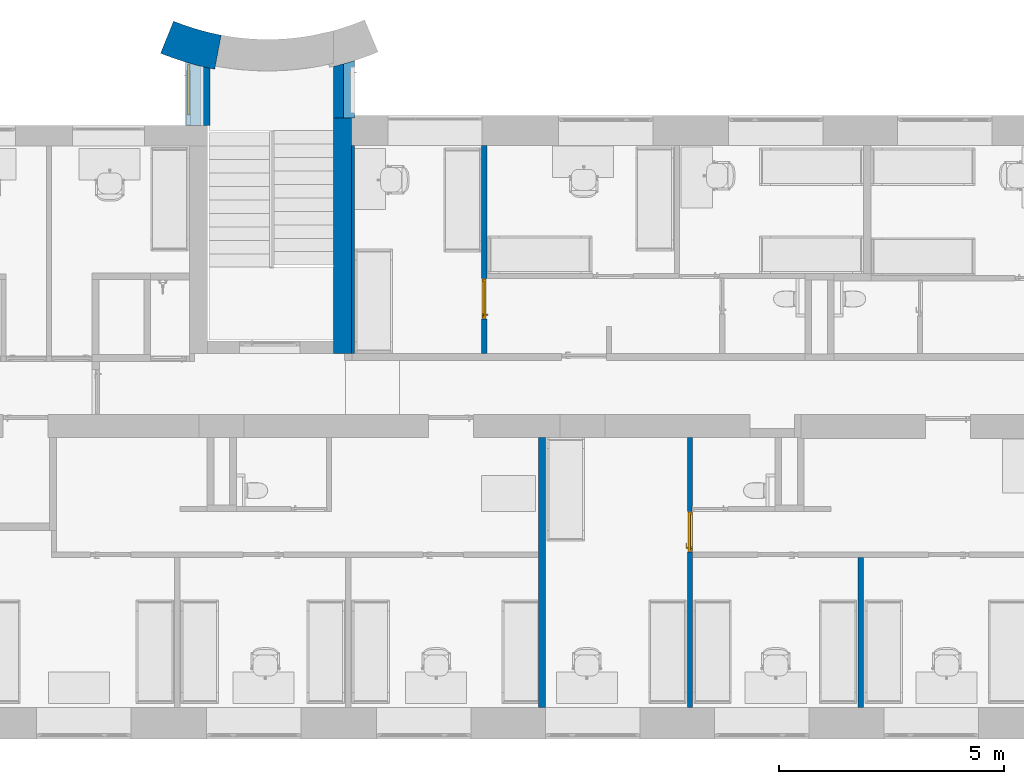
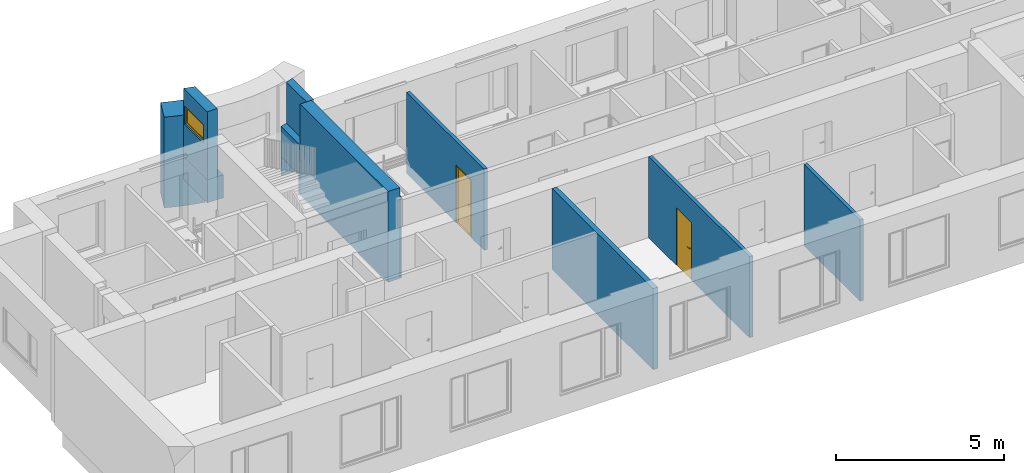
"""IFC2X3 building model written with IfcOpenShell, lengths in millimetres."""

from ifc_helpers import new_model, entity, si_unit, converted_unit, derived_unit, direction, frame, frame_2d, origin, origin_2d_with_axis, place, context, subcontext, project, spatial, polyline, circle_curve, parameter, trimmed, segment, composite_curve, rectangle, outline, extrude, faceted_brep, source, transform, mapped, material, material_list, layer, layer_set, layer_usage, type_object, type_shapes, element, fill, save


model = new_model("IFC2X3")

# Units and contexts
model_context = context("Model", 3, precision=0.01, world=origin(), true_north=direction((6.12303176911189e-17, 1.0)))
body_context = subcontext(model_context, "Body", "Model", "MODEL_VIEW")
ifc_project = project(units=[si_unit("LENGTHUNIT", "METRE", prefix="MILLI"), si_unit("AREAUNIT", "SQUARE_METRE"), si_unit("VOLUMEUNIT", "CUBIC_METRE"), converted_unit("PLANEANGLEUNIT", "DEGREE", entity("IfcRatioMeasure", 0.0174532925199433), si_unit("PLANEANGLEUNIT", "RADIAN"), dimensions=[0, 0, 0, 0, 0, 0, 0]), si_unit("MASSUNIT", "GRAM", prefix="KILO"), derived_unit("MASSDENSITYUNIT", [(si_unit("MASSUNIT", "GRAM", prefix="KILO"), 1), (si_unit("LENGTHUNIT", "METRE"), -3)]), si_unit("TIMEUNIT", "SECOND"), si_unit("FREQUENCYUNIT", "HERTZ"), si_unit("THERMODYNAMICTEMPERATUREUNIT", "DEGREE_CELSIUS"), derived_unit("THERMALTRANSMITTANCEUNIT", [(si_unit("MASSUNIT", "GRAM", prefix="KILO"), 1), (si_unit("THERMODYNAMICTEMPERATUREUNIT", "KELVIN"), -1), (si_unit("TIMEUNIT", "SECOND"), -3)]), derived_unit("VOLUMETRICFLOWRATEUNIT", [(si_unit("LENGTHUNIT", "METRE"), 3), (si_unit("TIMEUNIT", "SECOND"), -1)]), si_unit("ELECTRICCURRENTUNIT", "AMPERE"), si_unit("ELECTRICVOLTAGEUNIT", "VOLT"), si_unit("POWERUNIT", "WATT"), si_unit("FORCEUNIT", "NEWTON", prefix="KILO"), si_unit("ILLUMINANCEUNIT", "LUX"), si_unit("LUMINOUSFLUXUNIT", "LUMEN"), si_unit("LUMINOUSINTENSITYUNIT", "CANDELA"), derived_unit("USERDEFINED", [(si_unit("MASSUNIT", "GRAM", prefix="KILO"), -1), (si_unit("LENGTHUNIT", "METRE"), -2), (si_unit("TIMEUNIT", "SECOND"), 3), (si_unit("LUMINOUSFLUXUNIT", "LUMEN"), 1)]), derived_unit("LINEARVELOCITYUNIT", [(si_unit("LENGTHUNIT", "METRE"), 1), (si_unit("TIMEUNIT", "SECOND"), -1)]), si_unit("PRESSUREUNIT", "PASCAL"), derived_unit("USERDEFINED", [(si_unit("LENGTHUNIT", "METRE"), -2), (si_unit("MASSUNIT", "GRAM", prefix="KILO"), 1), (si_unit("TIMEUNIT", "SECOND"), -2)]), derived_unit("LINEARFORCEUNIT", [(si_unit("MASSUNIT", "GRAM", prefix="KILO"), 1), (si_unit("LENGTHUNIT", "METRE"), 1), (si_unit("TIMEUNIT", "SECOND"), -2), (si_unit("LENGTHUNIT", "METRE"), -1)]), derived_unit("PLANARFORCEUNIT", [(si_unit("MASSUNIT", "GRAM", prefix="KILO"), 1), (si_unit("LENGTHUNIT", "METRE"), 1), (si_unit("TIMEUNIT", "SECOND"), -2), (si_unit("LENGTHUNIT", "METRE"), -2)])], contexts=[model_context])

# Site, building, storey
site_placement = place(None, origin())
site = spatial("IfcSite", under=ifc_project, at=site_placement, Name="Default", CompositionType="ELEMENT")
building_placement = place(site_placement, origin())
building = spatial("IfcBuilding", under=site, at=building_placement, Name="SMA ARH", CompositionType="ELEMENT")
storey_1_placement = place(building_placement, origin())
storey_1 = spatial("IfcBuildingStorey", under=building, at=storey_1_placement, Name="1 Korrus", CompositionType="ELEMENT", Elevation=0.0)

# Wall
ifc_material_1 = material(Name="_ol.olev sein")
ifc_layer_1 = layer(ifc_material_1, 550.0)
ifc_layer_set_1 = layer_set([ifc_layer_1], Name="Basic Wall:Generic - 550mm")
ifc_layer_usage_1 = layer_usage(ifc_layer_set_1, "AXIS2", "POSITIVE", -275.0)
wall_type_1 = type_object("IfcWallType", Name="Basic Wall:Generic - 550mm", PredefinedType="STANDARD", material=ifc_layer_set_1)
wall_1_placement = place(storey_1_placement, frame((8585.0, 14359.8455573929, 960.0), z_axis=(0.0, 0.0, 1.0), x_axis=(0.0, -1.0, 0.0)))
element("IfcWallStandardCase", 1, at=wall_1_placement, inside=storey_1, type_object=wall_type_1, material=ifc_layer_usage_1, Name="Basic Wall:Generic - 550mm", ObjectType="Basic Wall:Generic - 550mm", context=body_context, shape_type="SweptSolid", body=[
    extrude(outline(polyline([(1413.64251449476, -275.0), (1413.64251449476, 125.0), (1413.64251449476, 275.0), (139.29289710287, 275.0), (123.33436768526, 199.884855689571), (106.466268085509, 124.966686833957), (56.5055359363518, -75.8576787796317), (0.0, -275.0), (1413.64251449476, -275.0)])), origin(), (0.0, 0.0, 1.0), 840.0),
])

# Wall, opening
ifc_layer_2 = layer(ifc_material_1, 400.0)
ifc_layer_set_2 = layer_set([ifc_layer_2], Name="Basic Wall:Generic - 400mm")
ifc_layer_usage_2 = layer_usage(ifc_layer_set_2, "AXIS2", "POSITIVE", -200.0)
wall_type_2 = type_object("IfcWallType", Name="Basic Wall:Generic - 400mm", PredefinedType="STANDARD", material=ifc_layer_set_2)
wall_2_placement = place(storey_1_placement, frame((11800.0, 7875.0, 0.0), z_axis=(0.0, 0.0, 1.0), x_axis=(0.0, 1.0, 0.0)))
wall_2 = element("IfcWallStandardCase", 2, at=wall_2_placement, inside=storey_1, type_object=wall_type_2, material=ifc_layer_usage_2, Name="Basic Wall:Generic - 400mm", ObjectType="Basic Wall:Generic - 400mm", context=body_context, shape_type="SweptSolid", body=[
    extrude(rectangle(XDim=5243.25809607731, YDim=400.0, at=frame_2d((2621.62904803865, 4.40536496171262e-13), x_axis=(-1.0, 0.0))), origin(), (0.0, 0.0, 1.0), 3299.99999999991),
])
opening_1_placement = place(wall_2_placement, origin())
element("IfcOpeningElement", 3, at=opening_1_placement, cuts=wall_2, Name="Basic Wall:Generic - 400mm", ObjectType="Opening", context=body_context, shape_type="SweptSolid", body=[
    extrude(rectangle(XDim=2099.99999999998, YDim=1050.0, at=origin_2d_with_axis()), frame((5860.59547606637, -1324.0, -350.0), z_axis=(0.0, 1.0, 0.0), x_axis=(0.0, 0.0, 1.0)), (0.0, 0.0, 1.0), 3048.0),
])

# Wall, openings
ifc_layer_3 = layer(ifc_material_1, 770.0)
ifc_layer_set_3 = layer_set([ifc_layer_3], Name="Basic Wall:Generic - 770mm")
ifc_layer_usage_3 = layer_usage(ifc_layer_set_3, "AXIS2", "POSITIVE", -385.0)
wall_type_3 = type_object("IfcWallType", Name="Basic Wall:Generic - 770mm", PredefinedType="STANDARD", material=ifc_layer_set_3)
wall_3_placement = place(storey_1_placement, frame((9033.44801807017, 14578.709841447, 0.0)))
wall_3 = element("IfcWallStandardCase", 4, at=wall_3_placement, inside=storey_1, type_object=wall_type_3, material=ifc_layer_usage_3, Name="Basic Wall:Generic - 770mm", ObjectType="Basic Wall:Generic - 770mm", context=body_context, shape_type="SweptSolid", body=[
    extrude(outline(composite_curve([segment(trimmed(circle_curve(frame_2d((1106.55198193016, 5851.42904744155), x_axis=(1.0, 0.0)), 6340.13888888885), [parameter(247.920826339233)], [parameter(259.291368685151)], True, "PARAMETER"), True, "CONTINUOUS"), segment(polyline([(-71.5386359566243, -378.295154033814), (71.5386359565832, 378.295154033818)]), True, "CONTINUOUS"), segment(trimmed(circle_curve(frame_2d((1106.55198193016, 5851.42904744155), x_axis=(1.0, 0.0)), 5570.13888888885), [parameter(247.920826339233)], [parameter(259.291368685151)], True, "PARAMETER"), False, "CONTINUOUS"), segment(polyline([(-987.19335500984, 689.774496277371), (-1276.62669618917, -23.7578022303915)]), True, "CONTINUOUS")], self_intersect=False)), origin(), (0.0, 0.0, 1.0), 3299.99999999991),
])
opening_2_placement = place(wall_3_placement, origin())
element("IfcOpeningElement", 5, at=opening_2_placement, cuts=wall_3, Name="Basic Wall:Generic - 770mm", ObjectType="Recess", context=body_context, shape_type="SweptSolid", body=[
    extrude(rectangle(XDim=349.999999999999, YDim=1140.0, at=frame_2d((-5.40012479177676e-13, 0.0), x_axis=(1.0, 0.0))), frame((-548.448018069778, -838.709841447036, 3000.0)), (0.0, 0.0, 1.0), 670.0),
])
opening_3_placement = place(wall_3_placement, origin())
element("IfcOpeningElement", 6, at=opening_3_placement, cuts=wall_3, Name="Basic Wall:Generic - 770mm", ObjectType="Opening", context=body_context, shape_type="SweptSolid", body=[
    extrude(rectangle(XDim=469.999999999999, YDim=1050.0, at=frame_2d((0.0, 2.1600499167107e-12), x_axis=(1.0, 0.0))), frame((2801.55198193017, -843.114365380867, -1400.0)), (0.0, 0.0, 1.0), 2099.99999999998),
])

# Wall
ifc_layer_4 = layer(ifc_material_1, 250.0)
ifc_layer_set_4 = layer_set([ifc_layer_4], Name="Basic Wall:Generic - 250mm")
ifc_layer_usage_4 = layer_usage(ifc_layer_set_4, "AXIS2", "POSITIVE", -125.0)
wall_type_4 = type_object("IfcWallType", Name="Basic Wall:Generic - 250mm", PredefinedType="STANDARD", material=ifc_layer_set_4)
wall_4_placement = place(storey_1_placement, frame((11945.0, 13118.2580960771, 1800.0), z_axis=(0.0, 0.0, 1.0), x_axis=(0.0, 1.0, 0.0)))
element("IfcWallStandardCase", 7, at=wall_4_placement, inside=storey_1, type_object=wall_type_4, material=ifc_layer_usage_4, Name="Basic Wall:Generic - 250mm", ObjectType="Basic Wall:Generic - 250mm", context=body_context, shape_type="SweptSolid", body=[
    extrude(outline(composite_curve([segment(trimmed(circle_curve(frame_2d((7311.88079281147, 1805.0), x_axis=(0.0, -1.0)), 6340.13888888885), [parameter(285.365670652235)], [parameter(287.72265569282)], True, "PARAMETER"), False, "CONTINUOUS"), segment(polyline([(1198.3743414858, 125.0), (0.0, 125.0)]), True, "CONTINUOUS"), segment(polyline([(0.0, 125.0), (0.0, -125.0)]), True, "CONTINUOUS"), segment(polyline([(0.0, -125.0), (1272.63736913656, -125.0)]), True, "CONTINUOUS")], self_intersect=False)), origin(), (0.0, 0.0, 1.0), 1499.99999999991),
])

# Wall, opening
ifc_layer_5 = layer(ifc_material_1, 470.0)
ifc_layer_set_5 = layer_set([ifc_layer_5], Name="Basic Wall:Generic - 470mm")
ifc_layer_usage_5 = layer_usage(ifc_layer_set_5, "AXIS2", "POSITIVE", -235.0)
wall_type_5 = type_object("IfcWallType", Name="Basic Wall:Generic - 470mm", PredefinedType="STANDARD", material=ifc_layer_set_5)
wall_5_placement = place(storey_1_placement, frame((11835.0, 13118.2580960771, 0.0), z_axis=(0.0, 0.0, 1.0), x_axis=(0.0, 1.0, 0.0)))
wall_5 = element("IfcWallStandardCase", 8, at=wall_5_placement, inside=storey_1, type_object=wall_type_5, material=ifc_layer_usage_5, Name="Basic Wall:Generic - 470mm", ObjectType="Basic Wall:Generic - 470mm", context=body_context, shape_type="SweptSolid", body=[
    extrude(outline(polyline([(0.0, -235.0), (1272.63736913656, -235.0), (1234.21714978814, -110.371366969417), (1198.37544674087, 14.9960091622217), (1169.27259583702, 124.737070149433), (1142.13516350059, 235.0), (0.0, 235.0), (0.0, 15.0), (0.0, -235.0)])), origin(), (0.0, 0.0, 1.0), 1800.0),
])
opening_4_placement = place(wall_5_placement, frame((1142.33737998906, 235.0, -1400.0)))
element("IfcOpeningElement", 9, at=opening_4_placement, cuts=wall_5, Name="SMA_D01, 1-poolne:VU-02 - 1000x2100:1", ObjectType="Opening", context=body_context, shape_type="SweptSolid", body=[
    extrude(rectangle(XDim=2099.99999999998, YDim=1050.0, at=frame_2d((1049.99999999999, 525.0), x_axis=(1.0, 0.0))), frame((0.0, 0.0, 0.0), z_axis=(0.0, -1.0, 0.0), x_axis=(0.0, 0.0, 1.0)), (0.0, 0.0, 1.0), 470.0),
])

ifc_layer_6 = layer(ifc_material_1, 350.0)
ifc_layer_set_6 = layer_set([ifc_layer_6], Name="Basic Wall:Generic - 350mm")
ifc_layer_usage_6 = layer_usage(ifc_layer_set_6, "AXIS2", "POSITIVE", -175.0)
wall_type_6 = type_object("IfcWallType", Name="Basic Wall:Generic - 350mm", PredefinedType="STANDARD", material=ifc_layer_set_6)
wall_6_placement = place(storey_1_placement, frame((8485.0, 15169.1934185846, 1800.0), z_axis=(0.0, 0.0, 1.0), x_axis=(0.0, -1.0, 0.0)))
wall_6 = element("IfcWallStandardCase", 10, at=wall_6_placement, inside=storey_1, type_object=wall_type_6, material=ifc_layer_usage_6, Name="Basic Wall:Generic - 350mm", ObjectType="Basic Wall:Generic - 350mm", context=body_context, shape_type="SweptSolid", body=[
    extrude(outline(composite_curve([segment(polyline([(2222.99037568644, -175.0), (2222.99037568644, 175.0)]), True, "CONTINUOUS"), segment(polyline([(2222.99037568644, 175.0), (904.033129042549, 175.0)]), True, "CONTINUOUS"), segment(trimmed(circle_curve(frame_2d((-5260.945470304, 1655.0), x_axis=(0.0, 1.0)), 6340.13888888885), [parameter(253.223614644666)], [parameter(256.500706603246)], True, "PARAMETER"), False, "CONTINUOUS"), segment(polyline([(809.347861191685, -175.0), (2222.99037568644, -175.0)]), True, "CONTINUOUS")], self_intersect=False)), origin(), (0.0, 0.0, 1.0), 2472.52598950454),
])
opening_5_placement = place(wall_6_placement, frame((1999.19341858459, 175.0, 1200.0)))
opening_5 = element("IfcOpeningElement", 11, at=opening_5_placement, cuts=wall_6, Name="SMA_W1, 1-jaotus1:A-03_1140x670:1", ObjectType="Opening", context=body_context, shape_type="SweptSolid", body=[
    extrude(rectangle(XDim=670.0, YDim=1140.0, at=frame_2d((335.0, 570.000000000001), x_axis=(1.0, 0.0))), frame((0.0, 0.0, 0.0), z_axis=(0.0, -1.0, 0.0), x_axis=(0.0, 0.0, 1.0)), (0.0, 0.0, 1.0), 350.0),
])

# Storey
storey_2_placement = place(building_placement, frame((0.0, 0.0, 3300.0)))
storey_2 = spatial("IfcBuildingStorey", under=building, at=storey_2_placement, Name="2 Korrus", CompositionType="ELEMENT", Elevation=3299.99999999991)

# Window
ifc_material_2 = material(Name="Default")
ifc_material_3 = material(Name="EST. Klaas. 3x. Default")
ifc_material_list_1 = material_list([ifc_material_2, ifc_material_3])
ifc_material_4 = material(Name="<Unnamed>")
ifc_material_list_2 = material_list([ifc_material_4, ifc_material_2, ifc_material_3, ifc_material_4, ifc_material_2])
window_style = type_object("IfcWindowStyle", Name="SMA_W1, 1-jaotus1:A-03_1140x670", ConstructionType="NOTDEFINED", OperationType="NOTDEFINED", ParameterTakesPrecedence=False, Sizeable=False, material=ifc_material_list_2)
shared_shape_1 = source(origin(), body_context, "Body", "SweptSolid", [
    extrude(outline(polyline([(-325.0, -560.0), (325.0, -560.0), (325.0, 560.0), (-325.0, 560.0), (-325.0, -560.0)]), holes=[polyline([(-255.0, -490.0), (-255.0, 490.0), (255.0, 490.0), (255.0, -490.0), (-255.0, -490.0)])]), frame((570.0, 250.0, 335.0), z_axis=(0.0, 1.0, 0.0), x_axis=(0.0, 0.0, 1.0)), (0.0, 0.0, 1.0), 50.0),
    extrude(rectangle(XDim=20.0, YDim=980.0, at=frame_2d((-7.99360577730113e-15, 2.8421709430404e-14), x_axis=(1.0, 0.0))), frame((570.0, 275.0, 80.0), z_axis=(0.0, 0.0, 1.0), x_axis=(0.0, 1.0, 0.0)), (0.0, 0.0, 1.0), 510.0),
])
type_shapes(window_style, [shared_shape_1])
window_placement = place(opening_5_placement, frame((0.0, 0.0, 0.0), z_axis=(0.0, 0.0, 1.0), x_axis=(-1.0, 0.0, 0.0)))
window = element("IfcWindow", 12, at=window_placement, inside=storey_2, type_object=window_style, material=ifc_material_list_1, Name="SMA_W1, 1-jaotus1:A-03_1140x670", ObjectType="SMA_W1, 1-jaotus1:A-03_1140x670", OverallHeight=670.0, OverallWidth=1140.0, context=body_context, shape_type="MappedRepresentation", body=[
    mapped(shared_shape_1, transform((0.0, 0.0, 0.0), scale=1.0)),
])

fill(opening_5, window)

# Walls
ifc_material_5 = material(Name="EST. Ehitusplaat. Kipsplaat")
ifc_layer_7 = layer(ifc_material_5, 12.5)
ifc_layer_8 = layer(ifc_material_5, 12.5)
ifc_material_6 = material(Name="EST. Soojustus. Mineraalvill. Default")
ifc_layer_9 = layer(ifc_material_6, 50.0)
ifc_layer_10 = layer(ifc_material_5, 12.5)
ifc_layer_11 = layer(ifc_material_6, 50.0)
ifc_layer_12 = layer(ifc_material_5, 12.5)
ifc_layer_13 = layer(ifc_material_5, 12.5)
ifc_layer_set_7 = layer_set([ifc_layer_7, ifc_layer_8, ifc_layer_9, ifc_layer_10, ifc_layer_11, ifc_layer_12, ifc_layer_13], Name="Basic Wall:SS-04_Kips, 50+50 mm metallkarkass 2")
ifc_layer_usage_7 = layer_usage(ifc_layer_set_7, "AXIS2", "NEGATIVE", 81.25)
wall_type_7 = type_object("IfcWallType", Name="Basic Wall:SS-04_Kips, 50+50 mm metallkarkass 2", PredefinedType="STANDARD", material=ifc_layer_set_7)
wall_7_placement = place(storey_1_placement, frame((16239.2500000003, 0.0, 0.0), z_axis=(0.0, 0.0, 1.0), x_axis=(0.0, 1.0, 0.0)))
element("IfcWallStandardCase", 13, at=wall_7_placement, inside=storey_1, type_object=wall_type_7, material=ifc_layer_usage_7, Name="Basic Wall:SS-04_Kips, 50+50 mm metallkarkass 2", ObjectType="Basic Wall:SS-04_Kips, 50+50 mm metallkarkass 2", context=body_context, shape_type="SweptSolid", body=[
    extrude(rectangle(XDim=6010.00000000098, YDim=162.500000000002, at=frame_2d((3005.00000000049, 0.0), x_axis=(-1.0, 0.0))), origin(), (0.0, 0.0, 1.0), 2949.99999999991),
])
ifc_layer_14 = layer(ifc_material_5, 12.5)
ifc_layer_15 = layer(ifc_material_5, 12.5)
ifc_layer_16 = layer(ifc_material_6, 66.0)
ifc_layer_17 = layer(ifc_material_5, 12.5)
ifc_layer_18 = layer(ifc_material_5, 12.5)
ifc_layer_set_8 = layer_set([ifc_layer_14, ifc_layer_15, ifc_layer_16, ifc_layer_17, ifc_layer_18], Name="Basic Wall:SS-05_Kips, 66mm metallkarkass")
ifc_layer_usage_8 = layer_usage(ifc_layer_set_8, "AXIS2", "NEGATIVE", 58.0)
wall_type_8 = type_object("IfcWallType", Name="Basic Wall:SS-05_Kips, 66mm metallkarkass", PredefinedType="STANDARD", material=ifc_layer_set_8)
wall_8_placement = place(storey_1_placement, frame((23330.0, 0.0, 0.0), z_axis=(0.0, 0.0, 1.0), x_axis=(0.0, 1.0, 0.0)))
element("IfcWallStandardCase", 14, at=wall_8_placement, inside=storey_1, type_object=wall_type_8, material=ifc_layer_usage_8, Name="Basic Wall:SS-05_Kips, 66mm metallkarkass", ObjectType="Basic Wall:SS-05_Kips, 66mm metallkarkass", context=body_context, shape_type="SweptSolid", body=[
    extrude(rectangle(XDim=3344.00000000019, YDim=116.0, at=frame_2d((1672.0000000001, 1.4210854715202e-14), x_axis=(-1.0, 0.0))), origin(), (0.0, 0.0, 1.0), 2949.99999999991),
])

# Wall, openings, door
ifc_layer_usage_9 = layer_usage(ifc_layer_set_8, "AXIS2", "NEGATIVE", 58.0)
wall_9_placement = place(storey_1_placement, frame((19530.0, 0.0, 0.0), z_axis=(0.0, 0.0, 1.0), x_axis=(0.0, 1.0, 0.0)))
wall_9 = element("IfcWallStandardCase", 15, at=wall_9_placement, inside=storey_1, type_object=wall_type_8, material=ifc_layer_usage_9, Name="Basic Wall:SS-05_Kips, 66mm metallkarkass", ObjectType="Basic Wall:SS-05_Kips, 66mm metallkarkass", context=body_context, shape_type="SweptSolid", body=[
    extrude(rectangle(XDim=6010.00000000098, YDim=115.999999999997, at=frame_2d((3005.00000000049, -5.08038056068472e-13), x_axis=(-1.0, 0.0))), origin(), (0.0, 0.0, 1.0), 2949.99999999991),
])
opening_6_placement = place(wall_9_placement, origin())
element("IfcOpeningElement", 16, at=opening_6_placement, cuts=wall_9, Name="Basic Wall:SS-05_Kips, 66mm metallkarkass", ObjectType="Opening", context=body_context, shape_type="SweptSolid", body=[
    extrude(rectangle(XDim=2099.99999999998, YDim=116.0, at=frame_2d((2.70006239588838e-13, 0.0), x_axis=(0.0, 1.0))), frame((4418.0, -845.499999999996, 1050.0), z_axis=(0.0, 1.0, 0.0), x_axis=(-1.0, 0.0, 0.0)), (0.0, 0.0, 1.0), 800.0),
])
opening_7_placement = place(wall_9_placement, frame((3460.0, -58.0, 0.0)))
opening_7 = element("IfcOpeningElement", 17, at=opening_7_placement, cuts=wall_9, Name="SMA_D01, 1-poolne:SU-P-05 - 900x2100 TUBA:1", ObjectType="Opening", context=body_context, shape_type="SweptSolid", body=[
    extrude(rectangle(XDim=2099.99999999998, YDim=900.0, at=frame_2d((1049.99999999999, 450.0), x_axis=(1.0, 0.0))), frame((0.0, 0.0, 0.0), z_axis=(0.0, 1.0, 0.0), x_axis=(0.0, 0.0, 1.0)), (0.0, 0.0, 1.0), 116.0),
])
ifc_material_7 = material(Name="EST. Metall. Alumiinium. Värvitud. RAL7023 (Concrete grey)")
ifc_material_list_3 = material_list([ifc_material_4, ifc_material_3, ifc_material_4, ifc_material_7, ifc_material_7, ifc_material_7, ifc_material_4])
door_style_1 = type_object("IfcDoorStyle", Name="SMA_D01, 1-poolne:SU-P-05 - 900x2100 TUBA", ConstructionType="NOTDEFINED", OperationType="SINGLE_SWING_RIGHT", ParameterTakesPrecedence=False, Sizeable=False, material=ifc_material_list_3)
shared_shape_2 = source(origin(), body_context, "Body", "Brep", [
    faceted_brep([(110.0, 6.0, 1112.5), (110.0, 44.0, 1112.5), (85.0, 44.0, 1112.5), (85.0, 1.0, 1112.5), (205.0, 1.0, 1112.5), (205.0, 6.0, 1112.5), (110.0, 6.0, 1087.5), (205.0, 6.0, 1087.5), (205.0, 1.0, 1087.5), (85.0, 1.0, 1087.5), (85.0, 44.0, 1087.5), (110.0, 44.0, 1087.5)], [[[0, 1, 2, 3, 4, 5]], [[6, 7, 8, 9, 10, 11]], [[1, 0, 6, 11]], [[2, 1, 11, 10]], [[3, 2, 10, 9]], [[4, 3, 9, 8]], [[5, 4, 8, 7]], [[0, 5, 7, 6]]]),
    faceted_brep([(122.5, 44.0, 1137.5), (122.5, 46.0, 1137.5), (72.5000000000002, 46.0, 1137.5), (72.5000000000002, 44.0, 1137.5), (122.5, 44.0, 1017.5), (72.5000000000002, 44.0, 1017.5), (72.5000000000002, 46.0, 1017.5), (122.5, 46.0, 1017.5)], [[[0, 1, 2, 3]], [[4, 5, 6, 7]], [[1, 0, 4, 7]], [[2, 1, 7, 6]], [[3, 2, 6, 5]], [[0, 3, 5, 4]]]),
    faceted_brep([(110.0, 136.0, 1112.5), (205.0, 136.0, 1112.5), (205.0, 141.0, 1112.5), (85.0, 141.0, 1112.5), (85.0, 98.0, 1112.5), (110.0, 98.0, 1112.5), (110.0, 136.0, 1087.5), (110.0, 98.0, 1087.5), (85.0, 98.0, 1087.5), (85.0, 141.0, 1087.5), (205.0, 141.0, 1087.5), (205.0, 136.0, 1087.5)], [[[0, 1, 2, 3, 4, 5]], [[6, 7, 8, 9, 10, 11]], [[5, 7, 6, 0]], [[4, 8, 7, 5]], [[3, 9, 8, 4]], [[2, 10, 9, 3]], [[1, 11, 10, 2]], [[0, 6, 11, 1]]]),
    faceted_brep([(122.5, 98.0, 1137.5), (72.5000000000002, 98.0, 1137.5), (72.5000000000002, 96.0, 1137.5), (122.5, 96.0, 1137.5), (122.5, 98.0, 1017.5), (122.5, 96.0, 1017.5), (72.5000000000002, 96.0, 1017.5), (72.5000000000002, 98.0, 1017.5)], [[[0, 1, 2, 3]], [[4, 5, 6, 7]], [[3, 5, 4, 0]], [[2, 6, 5, 3]], [[1, 7, 6, 2]], [[0, 4, 7, 1]]]),
    faceted_brep([(850.0, 6.0, 30.0), (850.0, 6.0, 0.0), (850.0, 46.0, 0.0), (850.0, 46.0, 20.0), (850.0, 46.0, 30.0), (50.0, 6.0, 30.0), (50.0, 46.0, 30.0), (50.0, 46.0, 20.0), (50.0, 46.0, 0.0), (50.0, 6.0, 0.0), (35.0, 46.0, 0.0), (35.0, 96.0, 0.0), (865.0, 96.0, 0.0), (865.0, 46.0, 0.0), (865.0, 96.0, 20.0), (865.0, 46.0, 20.0), (35.0, 96.0, 20.0), (35.0, 46.0, 20.0)], [[[0, 1, 2, 3, 4]], [[5, 6, 7, 8, 9]], [[1, 0, 5, 9]], [[2, 1, 9, 8, 10, 11, 12, 13]], [[6, 4, 3, 7]], [[0, 4, 6, 5]], [[14, 15, 13, 12]], [[16, 11, 10, 17]], [[15, 14, 16, 17, 7, 3]], [[13, 15, 3, 2]], [[14, 12, 11, 16]], [[17, 10, 8, 7]]]),
    faceted_brep([(890.0, 6.0, 0.0), (850.0, 6.0, 0.0), (850.0, 46.0, 0.0), (865.0, 46.0, 0.0), (865.0, 96.0, 0.0), (890.0, 96.0, 0.0), (890.0, 6.0, 2090.0), (10.0, 6.0, 2090.0), (10.0, 6.0, 0.0), (50.0, 6.0, 0.0), (50.0, 6.0, 2050.0), (850.0, 6.0, 2050.0), (850.0, 46.0, 2050.0), (50.0, 46.0, 2050.0), (50.0, 46.0, 0.0), (35.0, 46.0, 0.0), (35.0, 46.0, 2065.0), (865.0, 46.0, 2065.0), (865.0, 96.0, 2065.0), (35.0, 96.0, 2065.0), (35.0, 96.0, 0.0), (10.0, 96.0, 0.0), (10.0, 96.0, 2090.0), (890.0, 96.0, 2090.0)], [[[0, 1, 2, 3, 4, 5]], [[1, 0, 6, 7, 8, 9, 10, 11]], [[2, 1, 11, 12]], [[3, 2, 12, 13, 14, 15, 16, 17]], [[4, 3, 17, 18]], [[5, 4, 18, 19, 20, 21, 22, 23]], [[0, 5, 23, 6]], [[8, 7, 22, 21]], [[9, 8, 21, 20, 15, 14]], [[10, 9, 14, 13]], [[16, 15, 20, 19]], [[11, 10, 13, 12]], [[17, 16, 19, 18]], [[7, 6, 23, 22]]]),
    faceted_brep([(35.0, 46.0, 2065.0), (35.0, 46.0, 20.0), (865.0, 46.0, 20.0), (865.0, 46.0, 2065.0), (35.0, 96.0, 2065.0), (865.0, 96.0, 2065.0), (865.0, 96.0, 20.0), (35.0, 96.0, 20.0)], [[[0, 1, 2, 3]], [[4, 5, 6, 7]], [[1, 0, 4, 7]], [[2, 1, 7, 6]], [[3, 2, 6, 5]], [[0, 3, 5, 4]]]),
])
type_shapes(door_style_1, [shared_shape_2])
door_1_placement = place(opening_7_placement, origin())
door_1 = element("IfcDoor", 18, at=door_1_placement, inside=storey_1, type_object=door_style_1, material=ifc_material_7, Name="SMA_D01, 1-poolne:SU-P-05 - 900x2100 TUBA", ObjectType="SMA_D01, 1-poolne:SU-P-05 - 900x2100 TUBA", OverallHeight=2099.99999999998, OverallWidth=900.0, context=body_context, shape_type="MappedRepresentation", body=[
    mapped(shared_shape_2, transform((0.0, 0.0, 0.0), scale=1.0)),
])
fill(opening_7, door_1)

# Wall, opening, door
ifc_layer_usage_10 = layer_usage(ifc_layer_set_8, "AXIS2", "NEGATIVE", 58.0)
wall_10_placement = place(storey_1_placement, frame((14957.5000000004, 12500.0, 0.0), z_axis=(0.0, 0.0, 1.0), x_axis=(0.0, -1.0, 0.0)))
wall_10 = element("IfcWallStandardCase", 19, at=wall_10_placement, inside=storey_1, type_object=wall_type_8, material=ifc_layer_usage_10, Name="Basic Wall:SS-05_Kips, 66mm metallkarkass", ObjectType="Basic Wall:SS-05_Kips, 66mm metallkarkass", context=body_context, shape_type="SweptSolid", body=[
    extrude(rectangle(XDim=4617.49999999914, YDim=116.0, at=frame_2d((2308.74999999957, -1.17239551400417e-13), x_axis=(-1.0, 0.0))), origin(), (0.0, 0.0, 1.0), 2949.99999999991),
])
opening_8_placement = place(wall_10_placement, frame((2959.0, -58.0, 0.0)))
opening_8 = element("IfcOpeningElement", 20, at=opening_8_placement, cuts=wall_10, Name="SMA_D01, 1-poolne:SU-P-05 - 900x2100 TUBA:1", ObjectType="Opening", context=body_context, shape_type="SweptSolid", body=[
    extrude(rectangle(XDim=2099.99999999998, YDim=900.0, at=frame_2d((1049.99999999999, 450.0), x_axis=(1.0, 0.0))), frame((0.0, 0.0, 0.0), z_axis=(0.0, 1.0, 0.0), x_axis=(0.0, 0.0, 1.0)), (0.0, 0.0, 1.0), 116.0),
])
ifc_material_list_4 = material_list([ifc_material_7, ifc_material_4, ifc_material_7, ifc_material_4, ifc_material_4, ifc_material_3, ifc_material_7])
door_style_2 = type_object("IfcDoorStyle", Name="SMA_D01, 1-poolne:SU-P-05 - 900x2100 TUBA", ConstructionType="NOTDEFINED", OperationType="SINGLE_SWING_LEFT", ParameterTakesPrecedence=False, Sizeable=False, material=ifc_material_list_4)
shared_shape_3 = source(origin(), body_context, "Body", "Brep", [
    faceted_brep([(790.0, 6.0, 1112.5), (695.0, 6.0, 1112.5), (695.0, 1.0, 1112.5), (815.0, 1.0, 1112.5), (815.0, 44.0, 1112.5), (790.0, 44.0, 1112.5), (790.0, 6.0, 1087.5), (790.0, 44.0, 1087.5), (815.0, 44.0, 1087.5), (815.0, 1.0, 1087.5), (695.0, 1.0, 1087.5), (695.0, 6.0, 1087.5)], [[[0, 1, 2, 3, 4, 5]], [[6, 7, 8, 9, 10, 11]], [[5, 7, 6, 0]], [[4, 8, 7, 5]], [[3, 9, 8, 4]], [[2, 10, 9, 3]], [[1, 11, 10, 2]], [[0, 6, 11, 1]]]),
    faceted_brep([(777.500000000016, 44.0, 1137.5), (827.500000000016, 44.0, 1137.5), (827.500000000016, 46.0, 1137.5), (777.500000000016, 46.0, 1137.5), (777.500000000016, 44.0, 1017.5), (777.500000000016, 46.0, 1017.5), (827.500000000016, 46.0, 1017.5), (827.500000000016, 44.0, 1017.5)], [[[0, 1, 2, 3]], [[4, 5, 6, 7]], [[3, 5, 4, 0]], [[2, 6, 5, 3]], [[1, 7, 6, 2]], [[0, 4, 7, 1]]]),
    faceted_brep([(790.0, 136.0, 1112.5), (790.0, 98.0, 1112.5), (815.0, 98.0, 1112.5), (815.0, 141.0, 1112.5), (695.0, 141.0, 1112.5), (695.0, 136.0, 1112.5), (790.0, 136.0, 1087.5), (695.0, 136.0, 1087.5), (695.0, 141.0, 1087.5), (815.0, 141.0, 1087.5), (815.0, 98.0, 1087.5), (790.0, 98.0, 1087.5)], [[[0, 1, 2, 3, 4, 5]], [[6, 7, 8, 9, 10, 11]], [[1, 0, 6, 11]], [[2, 1, 11, 10]], [[3, 2, 10, 9]], [[4, 3, 9, 8]], [[5, 4, 8, 7]], [[0, 5, 7, 6]]]),
    faceted_brep([(777.500000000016, 98.0, 1137.5), (777.500000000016, 96.0, 1137.5), (827.500000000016, 96.0, 1137.5), (827.500000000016, 98.0, 1137.5), (777.500000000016, 98.0, 1017.5), (827.500000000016, 98.0, 1017.5), (827.500000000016, 96.0, 1017.5), (777.500000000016, 96.0, 1017.5)], [[[0, 1, 2, 3]], [[4, 5, 6, 7]], [[1, 0, 4, 7]], [[2, 1, 7, 6]], [[3, 2, 6, 5]], [[0, 3, 5, 4]]]),
    faceted_brep([(50.0, 6.0, 30.0), (50.0, 46.0, 30.0), (50.0, 46.0, 20.0), (50.0, 46.0, 0.0), (50.0, 6.0, 0.0), (850.0, 6.0, 30.0), (850.0, 6.0, 0.0), (850.0, 46.0, 0.0), (850.0, 46.0, 20.0), (850.0, 46.0, 30.0), (35.0, 46.0, 0.0), (35.0, 96.0, 0.0), (865.0, 96.0, 0.0), (865.0, 46.0, 0.0), (35.0, 96.0, 20.0), (35.0, 46.0, 20.0), (865.0, 96.0, 20.0), (865.0, 46.0, 20.0)], [[[0, 1, 2, 3, 4]], [[5, 6, 7, 8, 9]], [[4, 6, 5, 0]], [[3, 10, 11, 12, 13, 7, 6, 4]], [[9, 8, 2, 1]], [[0, 5, 9, 1]], [[14, 11, 10, 15]], [[16, 17, 13, 12]], [[15, 2, 8, 17, 16, 14]], [[10, 3, 2, 15]], [[14, 16, 12, 11]], [[17, 8, 7, 13]]]),
    faceted_brep([(10.0, 6.0, 0.0), (10.0, 96.0, 0.0), (35.0, 96.0, 0.0), (35.0, 46.0, 0.0), (50.0, 46.0, 0.0), (50.0, 6.0, 0.0), (50.0, 6.0, 2050.0), (850.0, 6.0, 2050.0), (850.0, 6.0, 0.0), (890.0, 6.0, 0.0), (890.0, 6.0, 2090.0), (10.0, 6.0, 2090.0), (50.0, 46.0, 2050.0), (35.0, 46.0, 2065.0), (865.0, 46.0, 2065.0), (865.0, 46.0, 0.0), (850.0, 46.0, 0.0), (850.0, 46.0, 2050.0), (35.0, 96.0, 2065.0), (10.0, 96.0, 2090.0), (890.0, 96.0, 2090.0), (890.0, 96.0, 0.0), (865.0, 96.0, 0.0), (865.0, 96.0, 2065.0)], [[[0, 1, 2, 3, 4, 5]], [[5, 6, 7, 8, 9, 10, 11, 0]], [[4, 12, 6, 5]], [[3, 13, 14, 15, 16, 17, 12, 4]], [[2, 18, 13, 3]], [[1, 19, 20, 21, 22, 23, 18, 2]], [[0, 11, 19, 1]], [[9, 21, 20, 10]], [[8, 16, 15, 22, 21, 9]], [[7, 17, 16, 8]], [[14, 23, 22, 15]], [[6, 12, 17, 7]], [[13, 18, 23, 14]], [[10, 20, 19, 11]]]),
    faceted_brep([(865.0, 46.0, 2065.0), (35.0, 46.0, 2065.0), (35.0, 46.0, 20.0), (865.0, 46.0, 20.0), (865.0, 96.0, 2065.0), (865.0, 96.0, 20.0), (35.0, 96.0, 20.0), (35.0, 96.0, 2065.0)], [[[0, 1, 2, 3]], [[4, 5, 6, 7]], [[3, 5, 4, 0]], [[2, 6, 5, 3]], [[1, 7, 6, 2]], [[0, 4, 7, 1]]]),
])
type_shapes(door_style_2, [shared_shape_3])
door_2_placement = place(opening_8_placement, origin())
door_2 = element("IfcDoor", 21, at=door_2_placement, inside=storey_1, type_object=door_style_2, material=ifc_material_7, Name="SMA_D01, 1-poolne:SU-P-05 - 900x2100 TUBA", ObjectType="SMA_D01, 1-poolne:SU-P-05 - 900x2100 TUBA", OverallHeight=2099.99999999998, OverallWidth=900.0, context=body_context, shape_type="MappedRepresentation", body=[
    mapped(shared_shape_3, transform((0.0, 0.0, 0.0), scale=1.0)),
])
fill(opening_8, door_2)

# Wall
ifc_layer_19 = layer(ifc_material_6, 50.0)
ifc_layer_20 = layer(ifc_material_5, 12.5)
ifc_layer_set_9 = layer_set([ifc_layer_19, ifc_layer_20], Name="Basic Wall:SS-05_Kips, 50mm metallkarkass")
ifc_layer_usage_11 = layer_usage(ifc_layer_set_9, "AXIS2", "POSITIVE", -31.25)
wall_type_9 = type_object("IfcWallType", Name="Basic Wall:SS-05_Kips, 50mm metallkarkass", PredefinedType="STANDARD", material=ifc_layer_set_9)
wall_11_placement = place(storey_1_placement, frame((12033.0, 12500.0, 0.0), z_axis=(0.0, 0.0, 1.0), x_axis=(0.0, -1.0, 0.0)))
element("IfcWallStandardCase", 22, at=wall_11_placement, inside=storey_1, type_object=wall_type_9, material=ifc_layer_usage_11, Name="Basic Wall:SS-05_Kips, 50mm metallkarkass", ObjectType="Basic Wall:SS-05_Kips, 50mm metallkarkass", context=body_context, shape_type="SweptSolid", body=[
    extrude(rectangle(XDim=4617.49999999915, YDim=62.4999999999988, at=frame_2d((2308.74999999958, -1.15463194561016e-13), x_axis=(-1.0, 0.0))), origin(), (0.0, 0.0, 1.0), 2949.99999999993),
])

save(model, "model.ifc")
